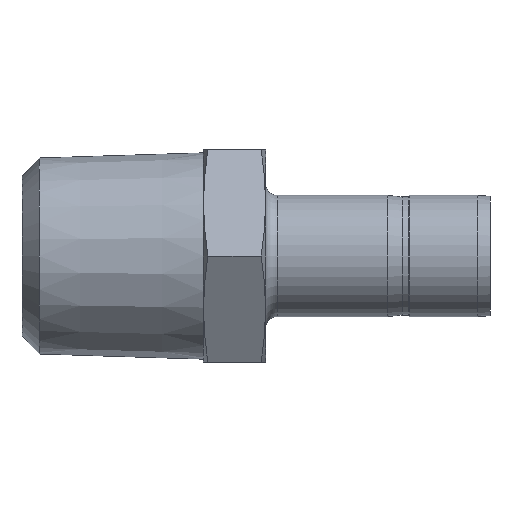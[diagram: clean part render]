
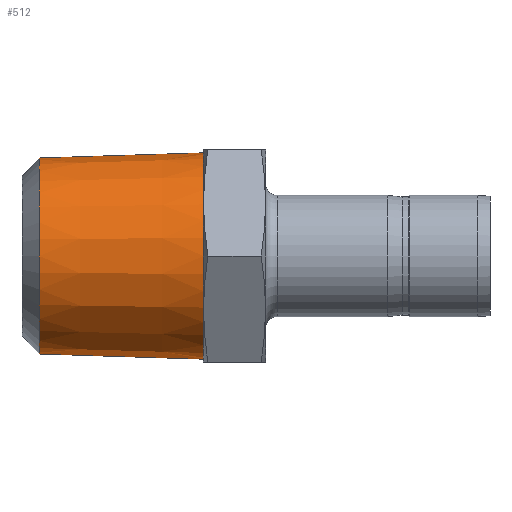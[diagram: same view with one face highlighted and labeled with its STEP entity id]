
A CAD part, front view. The second image highlights one B-rep face of the part: STEP entity #512.
In plain terms, the highlighted conical face has half-angle 1.8 degrees and reference radius 10.459 mm.
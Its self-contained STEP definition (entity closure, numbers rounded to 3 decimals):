
#505 = VERTEX_POINT ( 'NONE', #995 ) ;
#512 = ADVANCED_FACE ( 'NONE', ( #981 ), #979, .T. ) ;
#513 = EDGE_LOOP ( 'NONE', ( #514, #516, #519, #602 ) ) ;
#514 = ORIENTED_EDGE ( 'NONE', *, *, #515, .T. ) ;
#515 = EDGE_CURVE ( 'NONE', #673, #505, #980, .T. ) ;
#516 = ORIENTED_EDGE ( 'NONE', *, *, #517, .T. ) ;
#517 = EDGE_CURVE ( 'NONE', #505, #518, #970, .T. ) ;
#518 = VERTEX_POINT ( 'NONE', #966 ) ;
#519 = ORIENTED_EDGE ( 'NONE', *, *, #520, .T. ) ;
#520 = EDGE_CURVE ( 'NONE', #518, #521, #965, .T. ) ;
#521 = VERTEX_POINT ( 'NONE', #960 ) ;
#602 = ORIENTED_EDGE ( 'NONE', *, *, #603, .F. ) ;
#603 = EDGE_CURVE ( 'NONE', #673, #521, #1218, .T. ) ;
#673 = VERTEX_POINT ( 'NONE', #1311 ) ;
#960 = CARTESIAN_POINT ( 'NONE',  ( 0., 0., 10.8 ) ) ;
#961 = DIRECTION ( 'NONE',  ( 0., 0., -1. ) ) ;
#962 = DIRECTION ( 'NONE',  ( -1., 0., 0. ) ) ;
#963 = CARTESIAN_POINT ( 'NONE',  ( 0., 0., 0. ) ) ;
#964 = AXIS2_PLACEMENT_3D ( 'NONE', #963, #962, #961 ) ;
#965 = CIRCLE ( 'NONE', #964, 10.8 ) ;
#966 = CARTESIAN_POINT ( 'NONE',  ( 0., 0., -10.8 ) ) ;
#967 = DIRECTION ( 'NONE',  ( 1., 0., -0.031 ) ) ;
#968 = VECTOR ( 'NONE', #967, 1000. ) ;
#969 = CARTESIAN_POINT ( 'NONE',  ( -10.87, 0., -10.459 ) ) ;
#970 = LINE ( 'NONE', #969, #968 ) ;
#971 = DIRECTION ( 'NONE',  ( 0., 0., -1. ) ) ;
#972 = DIRECTION ( 'NONE',  ( 1., 0., 0. ) ) ;
#973 = CARTESIAN_POINT ( 'NONE',  ( -17.201, 0., 0. ) ) ;
#974 = AXIS2_PLACEMENT_3D ( 'NONE', #973, #972, #971 ) ;
#975 = DIRECTION ( 'NONE',  ( 0., 0., 1. ) ) ;
#976 = DIRECTION ( 'NONE',  ( 1., 0., 0. ) ) ;
#977 = CARTESIAN_POINT ( 'NONE',  ( -10.87, 0., 0. ) ) ;
#978 = AXIS2_PLACEMENT_3D ( 'NONE', #977, #976, #975 ) ;
#979 = CONICAL_SURFACE ( 'NONE', #978, 10.459, 0.031 ) ;
#980 = CIRCLE ( 'NONE', #974, 10.26 ) ;
#981 = FACE_OUTER_BOUND ( 'NONE', #513, .T. ) ;
#995 = CARTESIAN_POINT ( 'NONE',  ( -17.201, 0., -10.26 ) ) ;
#1212 = DIRECTION ( 'NONE',  ( 1., 0., 0.031 ) ) ;
#1213 = VECTOR ( 'NONE', #1212, 1000. ) ;
#1214 = CARTESIAN_POINT ( 'NONE',  ( -10.87, 0., 10.459 ) ) ;
#1218 = LINE ( 'NONE', #1214, #1213 ) ;
#1311 = CARTESIAN_POINT ( 'NONE',  ( -17.201, 0., 10.26 ) ) ;
